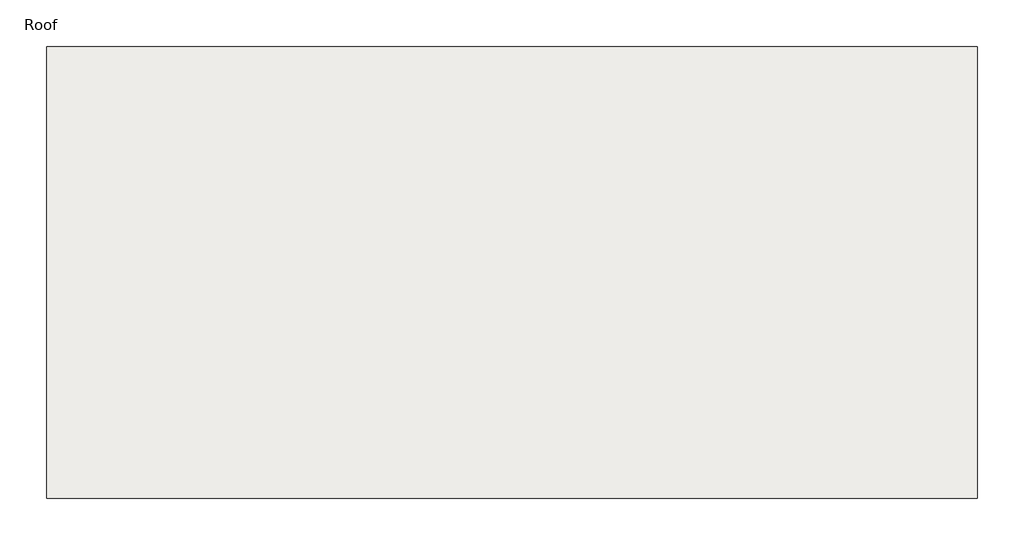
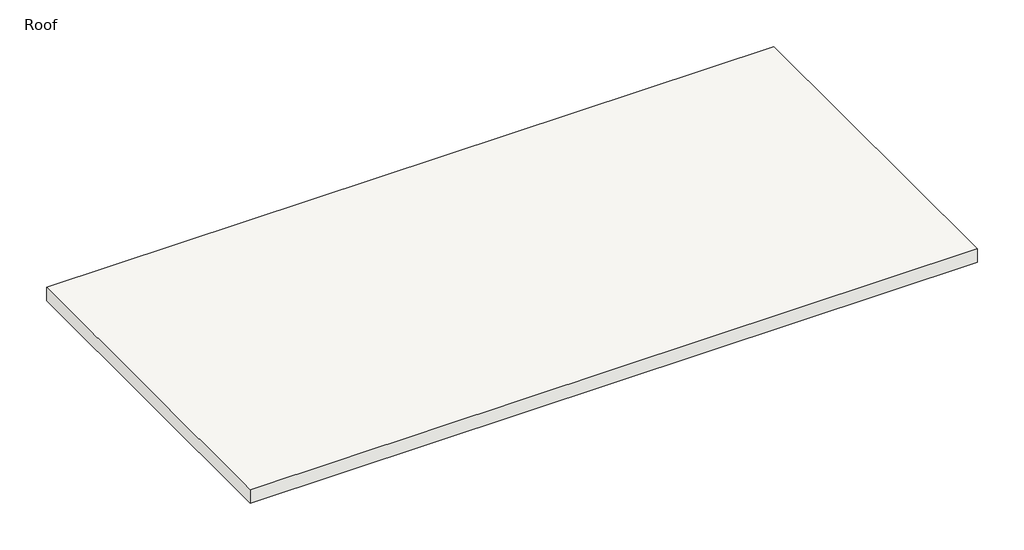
# One storey: 1 roof.
"""IFC4 building model written with IfcOpenShell, lengths in millimetres."""

import ifcopenshell
import ifcopenshell.guid

model = None  # the IFC model being written
_history = None  # IfcOwnerHistory: only IFC2X3 demands one
_inside = {}  # id of a spatial element -> (the spatial element, [elements in it])
_under = {}  # id of a project, library or spatial element -> (it, [spatial elements below it])
_declared = {}  # id of a project -> (the project, [libraries it declares])
_typed = {}  # id of a type object -> (the type object, [elements of that type])
_made_of = {}  # id of a material, layer set ... -> (it, [elements and type objects made of it])


def new_model(schema):
    """Start an empty IFC model of exactly this schema.

    Asked for "IFC4X3", IfcOpenShell would pick the latest addendum, in which some entities
    have other attributes; the version numbers below select the first issue.
    IFC2X3 requires an IfcOwnerHistory on every rooted entity: one is made here for all.
    """
    global model, _history
    if schema == "IFC4X3":
        model = ifcopenshell.file(schema_version=(4, 3, 0, 0))
    else:
        model = ifcopenshell.file(schema=schema)
    _inside.clear()
    _under.clear()
    _declared.clear()
    _typed.clear()
    _made_of.clear()
    _history = None
    if model.schema == "IFC2X3":
        org = make("IfcOrganization", Name="unknown")
        user = make(
            "IfcPersonAndOrganization",
            ThePerson=make("IfcPerson", FamilyName="unknown"),
            TheOrganization=org,
        )
        app = make(
            "IfcApplication",
            ApplicationDeveloper=org,
            Version="unknown",
            ApplicationFullName="unknown",
            ApplicationIdentifier="unknown",
        )
        _history = make(
            "IfcOwnerHistory",
            OwningUser=user,
            OwningApplication=app,
            ChangeAction="ADDED",
            CreationDate=0,
        )
    return model


def make(cls, **values):
    """One entity of the class cls with the attributes given. An attribute that is None is left unset."""
    return model.create_entity(
        cls, **{name: value for name, value in values.items() if value is not None}
    )


def rooted(cls, **values):
    """An entity with a GlobalId (a new one), such as an element, a storey or a relation."""
    return make(cls, GlobalId=ifcopenshell.guid.new(), OwnerHistory=_history, **values)


def si_unit(unit_type, name, prefix=None):
    """IfcSIUnit, for example si_unit("LENGTHUNIT", "METRE", prefix="MILLI")."""
    return make("IfcSIUnit", UnitType=unit_type, Prefix=prefix, Name=name)


def assignment(units):
    """IfcUnitAssignment: the units of a project."""
    return None if units is None else make("IfcUnitAssignment", Units=units)


def point(xyz):
    """IfcCartesianPoint."""
    return None if xyz is None else make("IfcCartesianPoint", Coordinates=xyz)


def direction(xyz):
    """IfcDirection."""
    return None if xyz is None else make("IfcDirection", DirectionRatios=xyz)


def frame(location, z_axis=None, x_axis=None):
    """IfcAxis2Placement3D, a coordinate frame: its origin and axes. An axis left out is left unset."""
    return make(
        "IfcAxis2Placement3D",
        Location=point(location),
        Axis=direction(z_axis),
        RefDirection=direction(x_axis),
    )


def origin():
    """The frame at (0, 0, 0) with its axes left unset."""
    return frame((0.0, 0.0, 0.0))


def place(relative_to, where):
    """IfcLocalPlacement: puts the frame where relative to a parent placement (None: the world)."""
    return make(
        "IfcLocalPlacement", PlacementRelTo=relative_to, RelativePlacement=where
    )


def context(
    kind, dimensions, precision=None, world=None, true_north=None, identifier=None
):
    """IfcGeometricRepresentationContext, for example the 3D "Model" context."""
    return make(
        "IfcGeometricRepresentationContext",
        ContextIdentifier=identifier,
        ContextType=kind,
        CoordinateSpaceDimension=dimensions,
        Precision=precision,
        WorldCoordinateSystem=world,
        TrueNorth=true_north,
    )


def project(units=None, contexts=None):
    """IfcProject with its units and contexts."""
    return rooted(
        "IfcProject",
        Name="project",
        RepresentationContexts=contexts,
        UnitsInContext=assignment(units),
    )


def spatial(cls, under=None, at=None, **own):
    """A site, building, storey or space (cls), placed at a placement, below another one or the project."""
    s = rooted(cls, ObjectPlacement=at, **own)
    if under is not None:
        _under.setdefault(under.id(), (under, []))[1].append(s)
    return s


def polyline(points):
    """IfcPolyline through the points."""
    return make("IfcPolyline", Points=[point(p) for p in points])


def outline(outer, holes=None, kind="AREA"):
    """IfcArbitraryClosedProfileDef: a profile drawn as a closed curve; with holes, ...WithVoids."""
    if holes is None:
        return make("IfcArbitraryClosedProfileDef", ProfileType=kind, OuterCurve=outer)
    return make(
        "IfcArbitraryProfileDefWithVoids",
        ProfileType=kind,
        OuterCurve=outer,
        InnerCurves=holes,
    )


def extrude(swept, where, along, depth):
    """IfcExtrudedAreaSolid: the profile swept, set in the frame where, extruded along a direction by depth."""
    return make(
        "IfcExtrudedAreaSolid",
        SweptArea=swept,
        Position=where,
        ExtrudedDirection=direction(along),
        Depth=depth,
    )


def shape(context_of_items, identifier, shape_type, items):
    """IfcShapeRepresentation: the items that make up one representation, for example the "Body"."""
    return make(
        "IfcShapeRepresentation",
        ContextOfItems=context_of_items,
        RepresentationIdentifier=identifier,
        RepresentationType=shape_type,
        Items=items,
    )


def made_of(thing, what):
    """Note that an element or type object is made of a material, layer set ...; save() writes the relation."""
    if what is not None:
        _made_of.setdefault(what.id(), (what, []))[1].append(thing)
    return thing


def element(
    cls,
    number,
    at=None,
    inside=None,
    cuts=None,
    type_object=None,
    material=None,
    context=None,
    identifier="Body",
    shape_type=None,
    held_by="IfcProductDefinitionShape",
    body=None,
    shapes=None,
    **own,
):
    """One element of the class cls, such as IfcWall. Its Tag is "e" and its number.

    at: its placement. inside: the storey or other place that contains it. cuts: it is an
    opening in that element (IfcRelVoidsElement). A single representation is given by context,
    identifier, shape_type and body (its items); several are given by shapes. held_by: the class
    of the entity that holds the representations. save() writes the other relations.
    """
    e = rooted(cls, Tag="e%d" % number, ObjectPlacement=at, **own)
    if body is not None:
        shapes = [shape(context, identifier, shape_type, body)]
    if shapes is not None:
        e.Representation = make(held_by, Representations=shapes)
    if inside is not None:
        _inside.setdefault(inside.id(), (inside, []))[1].append(e)
    if cuts is not None:
        rooted(
            "IfcRelVoidsElement", RelatingBuildingElement=cuts, RelatedOpeningElement=e
        )
    if type_object is not None:
        _typed.setdefault(type_object.id(), (type_object, []))[1].append(e)
    return made_of(e, material)


def aggregate(whole, parts):
    """IfcRelAggregates: a whole, such as a stair, and the parts it consists of."""
    return rooted("IfcRelAggregates", RelatingObject=whole, RelatedObjects=parts)


def save(model, path):
    """Write the relations noted so far, then the file.

    IfcRelAggregates (storeys below a building ...), IfcRelContainedInSpatialStructure (elements
    in a storey), IfcRelDefinesByType, IfcRelAssociatesMaterial and IfcRelDeclares: one each for
    every whole, place, type object, material and project.
    """
    for whole, parts in _under.values():
        aggregate(whole, parts)
    for where, things in _inside.values():
        rooted(
            "IfcRelContainedInSpatialStructure",
            RelatedElements=things,
            RelatingStructure=where,
        )
    for kind, things in _typed.values():
        rooted("IfcRelDefinesByType", RelatedObjects=things, RelatingType=kind)
    for what, things in _made_of.values():
        rooted("IfcRelAssociatesMaterial", RelatedObjects=things, RelatingMaterial=what)
    for by, libraries in _declared.values():
        rooted("IfcRelDeclares", RelatingContext=by, RelatedDefinitions=libraries)
    model.write(path)


model = new_model("IFC4")

# Units and contexts
model_context = context("Model", 3, world=origin())
ifc_project = project(units=[si_unit("LENGTHUNIT", "METRE", prefix="MILLI")], contexts=[model_context])

# Site, building, storey
site = spatial("IfcSite", under=ifc_project)
building = spatial("IfcBuilding", under=site)
storey = spatial("IfcBuildingStorey", under=building, Name="Roof", Elevation=12192.0)

# Roof
placement = place(None, origin())
element("IfcRoof", 1, ObjectType="Generic - 9\"", at=placement, inside=storey, context=model_context, shape_type="SweptSolid", body=[
    extrude(outline(polyline([(-16020.9719712, 7611.6441174), (-4181.3969712, 7611.6441174), (-4181.3969712, 1868.0691174), (-16020.9719712, 1868.0691174), (-16020.9719712, 7611.6441174)])), frame((0.0, 0.0, 12192.0), z_axis=(0.0, 0.0, 1.0), x_axis=(1.0, 0.0, 0.0)), (0.0, 0.0, 1.0), 228.6),
])

save(model, "model.ifc")
